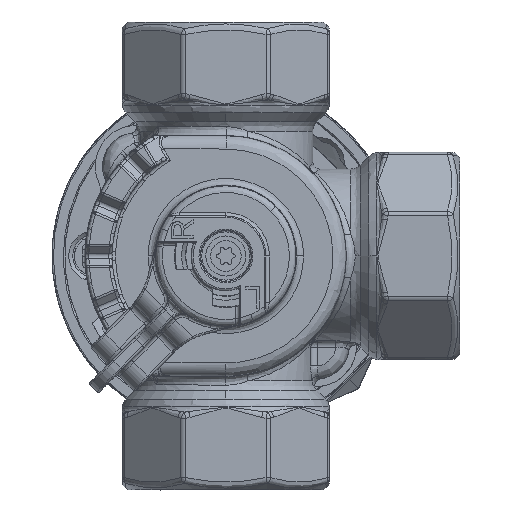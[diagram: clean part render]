
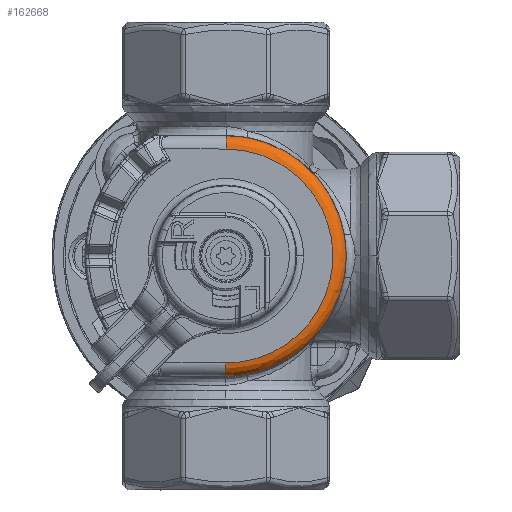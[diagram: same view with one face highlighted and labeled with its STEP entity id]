
A CAD part, left-side view. The second image highlights one B-rep face of the part: STEP entity #162668.
In plain terms, the highlighted free-form (B-spline) face has degree [3, 3] with [4, 7] control points.
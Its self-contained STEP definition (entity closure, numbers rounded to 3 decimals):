
#8415 = ORIENTED_EDGE ( 'NONE', *, *, #298509, .F. ) ;
#11188 = VERTEX_POINT ( 'NONE', #290254 ) ;
#13021 = CARTESIAN_POINT ( 'NONE',  ( 33.494, 3.453, 9.433 ) ) ;
#15758 = DIRECTION ( 'NONE',  ( -1., 0., 0. ) ) ;
#19754 = AXIS2_PLACEMENT_3D ( 'NONE', #284875, #249077, #254650 ) ;
#20309 = DIRECTION ( 'NONE',  ( 0., 1., 0. ) ) ;
#20403 = EDGE_LOOP ( 'NONE', ( #88008, #211473, #186819, #8415, #228410, #241306 ) ) ;
#28808 = CARTESIAN_POINT ( 'NONE',  ( 33.503, 36.589, -0.065 ) ) ;
#35818 = CARTESIAN_POINT ( 'NONE',  ( 32.667, 8.942, 18.04 ) ) ;
#37678 = CARTESIAN_POINT ( 'NONE',  ( 33.499, 19.478, 16. ) ) ;
#41731 = CARTESIAN_POINT ( 'NONE',  ( 33.501, 28.851, 15.965 ) ) ;
#46717 = CIRCLE ( 'NONE', #233425, 18. ) ;
#57112 = CARTESIAN_POINT ( 'NONE',  ( 33.494, 2.284, 10.124 ) ) ;
#69650 = CARTESIAN_POINT ( 'NONE',  ( 33.496, 10.105, 16.035 ) ) ;
#75534 = CARTESIAN_POINT ( 'NONE',  ( 33.503, 35.418, -0.06 ) ) ;
#79814 = DIRECTION ( 'NONE',  ( 0., 0.004, 1. ) ) ;
#87243 = CARTESIAN_POINT ( 'NONE',  ( 33.494, 3.418, 0.06 ) ) ;
#88008 = ORIENTED_EDGE ( 'NONE', *, *, #188817, .T. ) ;
#96906 = DIRECTION ( 'NONE',  ( 0., 0.004, 1. ) ) ;
#97943 = CARTESIAN_POINT ( 'NONE',  ( 32.675, 37.458, 10.476 ) ) ;
#103471 = CIRCLE ( 'NONE', #356811, 2. ) ;
#112201 = VERTEX_POINT ( 'NONE', #322347 ) ;
#114218 = CARTESIAN_POINT ( 'NONE',  ( 31.493, 1.418, 0.068 ) ) ;
#119415 = VERTEX_POINT ( 'NONE', #139123 ) ;
#130323 = CARTESIAN_POINT ( 'NONE',  ( 33.494, 3.453, 9.433 ) ) ;
#135297 = AXIS2_PLACEMENT_3D ( 'NONE', #310110, #79814, #219505 ) ;
#136405 = FACE_OUTER_BOUND ( 'NONE', #20403, .T. ) ;
#139123 = CARTESIAN_POINT ( 'NONE',  ( 31.494, 1.418, 0.068 ) ) ;
#153345 = CIRCLE ( 'NONE', #135297, 2. ) ;
#156759 = CARTESIAN_POINT ( 'NONE',  ( 33.503, 35.453, 9.312 ) ) ;
#159849 =( BOUNDED_SURFACE ( )  B_SPLINE_SURFACE ( 3, 3, ( 
 ( #221401, #249750, #253451, #170323, #368683, #340375, #342249 ),
 ( #285547, #299974, #35818, #317581, #230784, #97943, #239566 ),
 ( #202359, #57112, #328286, #213070, #352912, #266103, #28808 ),
 ( #354765, #13021, #69650, #37678, #267927, #345965, #179211 ) ),
 .UNSPECIFIED., .F., .F., .F. ) 
 B_SPLINE_SURFACE_WITH_KNOTS ( ( 4, 4 ),
 ( 4, 3, 4 ),
 ( 0., 1. ),
 ( 0., 0.5, 1. ),
 .UNSPECIFIED. ) 
 GEOMETRIC_REPRESENTATION_ITEM ( )  RATIONAL_B_SPLINE_SURFACE ( (
 ( 1., 0.805, 0.805, 1., 0.805, 0.805, 1.),
 ( 0.805, 0.648, 0.648, 0.805, 0.648, 0.648, 0.805),
 ( 0.805, 0.648, 0.648, 0.805, 0.648, 0.648, 0.805),
 ( 1., 0.805, 0.805, 1., 0.805, 0.805, 1.) ) ) 
 REPRESENTATION_ITEM ( '' )  SURFACE ( )  );
#162668 = ADVANCED_FACE ( 'NONE', ( #136405 ), #159849, .T. ) ;
#169746 = EDGE_CURVE ( 'NONE', #119415, #346634, #284936, .T. ) ;
#170323 = CARTESIAN_POINT ( 'NONE',  ( 31.499, 19.486, 18. ) ) ;
#179211 = CARTESIAN_POINT ( 'NONE',  ( 33.503, 35.418, -0.06 ) ) ;
#186819 = ORIENTED_EDGE ( 'NONE', *, *, #261906, .F. ) ;
#188817 = EDGE_CURVE ( 'NONE', #346634, #331702, #264642, .T. ) ;
#189390 = CARTESIAN_POINT ( 'NONE',  ( 31.498, 19.418, 0. ) ) ;
#196362 = VERTEX_POINT ( 'NONE', #114218 ) ;
#202359 = CARTESIAN_POINT ( 'NONE',  ( 33.494, 2.246, 0.065 ) ) ;
#211473 = ORIENTED_EDGE ( 'NONE', *, *, #231123, .T. ) ;
#212045 = DIRECTION ( 'NONE',  ( 0., -1., 0.004 ) ) ;
#213070 = CARTESIAN_POINT ( 'NONE',  ( 33.499, 19.482, 17.171 ) ) ;
#214798 = DIRECTION ( 'NONE',  ( -1., 0., 0. ) ) ;
#219505 = DIRECTION ( 'NONE',  ( 0., 1., -0.004 ) ) ;
#221401 = CARTESIAN_POINT ( 'NONE',  ( 31.493, 1.418, 0.068 ) ) ;
#228410 = ORIENTED_EDGE ( 'NONE', *, *, #325755, .T. ) ;
#230784 = CARTESIAN_POINT ( 'NONE',  ( 32.673, 30.03, 17.96 ) ) ;
#231123 = EDGE_CURVE ( 'NONE', #331702, #112201, #153345, .T. ) ;
#233425 = AXIS2_PLACEMENT_3D ( 'NONE', #363914, #214798, #20309 ) ;
#237443 = CARTESIAN_POINT ( 'NONE',  ( 33.503, 35.418, -0.06 ) ) ;
#239566 = CARTESIAN_POINT ( 'NONE',  ( 32.675, 37.418, -0.068 ) ) ;
#241306 = ORIENTED_EDGE ( 'NONE', *, *, #169746, .T. ) ;
#245790 = AXIS2_PLACEMENT_3D ( 'NONE', #189390, #15758, #304622 ) ;
#247330 = CARTESIAN_POINT ( 'NONE',  ( 33.494, 3.418, 0.06 ) ) ;
#249077 = DIRECTION ( 'NONE',  ( 0., 0.004, 1. ) ) ;
#249750 = CARTESIAN_POINT ( 'NONE',  ( 31.493, 1.458, 10.612 ) ) ;
#253451 = CARTESIAN_POINT ( 'NONE',  ( 31.495, 8.942, 18.04 ) ) ;
#254650 = DIRECTION ( 'NONE',  ( 0., -1., 0.004 ) ) ;
#261906 = EDGE_CURVE ( 'NONE', #11188, #112201, #46717, .T. ) ;
#264642 =( BOUNDED_CURVE ( )  B_SPLINE_CURVE ( 3, ( #247330, #130323, #300300, #302145, #41731, #156759, #75534 ),
 .UNSPECIFIED., .F., .F. ) 
 B_SPLINE_CURVE_WITH_KNOTS ( ( 4, 3, 4 ),
 ( 0., 0.5, 1. ),
 .UNSPECIFIED. ) 
 CURVE ( )  GEOMETRIC_REPRESENTATION_ITEM ( )  RATIONAL_B_SPLINE_CURVE ( ( 1., 0.805, 0.805, 1., 0.805, 0.805, 1. ) ) 
 REPRESENTATION_ITEM ( '' )  );
#266103 = CARTESIAN_POINT ( 'NONE',  ( 33.503, 36.627, 9.994 ) ) ;
#267927 = CARTESIAN_POINT ( 'NONE',  ( 33.501, 28.851, 15.965 ) ) ;
#284875 = CARTESIAN_POINT ( 'NONE',  ( 31.494, 3.418, 0.06 ) ) ;
#284936 = CIRCLE ( 'NONE', #19754, 2. ) ;
#285547 = CARTESIAN_POINT ( 'NONE',  ( 32.665, 1.418, 0.068 ) ) ;
#287847 = CIRCLE ( 'NONE', #245790, 18. ) ;
#290254 = CARTESIAN_POINT ( 'NONE',  ( 31.504, 37.418, 0. ) ) ;
#298509 = EDGE_CURVE ( 'NONE', #196362, #11188, #287847, .T. ) ;
#299974 = CARTESIAN_POINT ( 'NONE',  ( 32.665, 1.458, 10.612 ) ) ;
#300300 = CARTESIAN_POINT ( 'NONE',  ( 33.496, 10.105, 16.035 ) ) ;
#302145 = CARTESIAN_POINT ( 'NONE',  ( 33.499, 19.478, 16. ) ) ;
#304622 = DIRECTION ( 'NONE',  ( 0., 1., 0. ) ) ;
#310110 = CARTESIAN_POINT ( 'NONE',  ( 31.503, 35.418, -0.06 ) ) ;
#317581 = CARTESIAN_POINT ( 'NONE',  ( 32.67, 19.486, 18. ) ) ;
#322347 = CARTESIAN_POINT ( 'NONE',  ( 31.504, 37.418, -0.068 ) ) ;
#325755 = EDGE_CURVE ( 'NONE', #196362, #119415, #103471, .T. ) ;
#328286 = CARTESIAN_POINT ( 'NONE',  ( 33.496, 9.424, 17.209 ) ) ;
#331702 = VERTEX_POINT ( 'NONE', #237443 ) ;
#340375 = CARTESIAN_POINT ( 'NONE',  ( 31.504, 37.458, 10.476 ) ) ;
#342249 = CARTESIAN_POINT ( 'NONE',  ( 31.504, 37.418, -0.068 ) ) ;
#345965 = CARTESIAN_POINT ( 'NONE',  ( 33.503, 35.453, 9.312 ) ) ;
#346634 = VERTEX_POINT ( 'NONE', #87243 ) ;
#352912 = CARTESIAN_POINT ( 'NONE',  ( 33.501, 29.541, 17.134 ) ) ;
#354765 = CARTESIAN_POINT ( 'NONE',  ( 33.494, 3.418, 0.06 ) ) ;
#355582 = CARTESIAN_POINT ( 'NONE',  ( 31.494, 3.418, 0.06 ) ) ;
#356811 = AXIS2_PLACEMENT_3D ( 'NONE', #355582, #96906, #212045 ) ;
#363914 = CARTESIAN_POINT ( 'NONE',  ( 31.498, 19.418, 0. ) ) ;
#368683 = CARTESIAN_POINT ( 'NONE',  ( 31.502, 30.03, 17.96 ) ) ;
